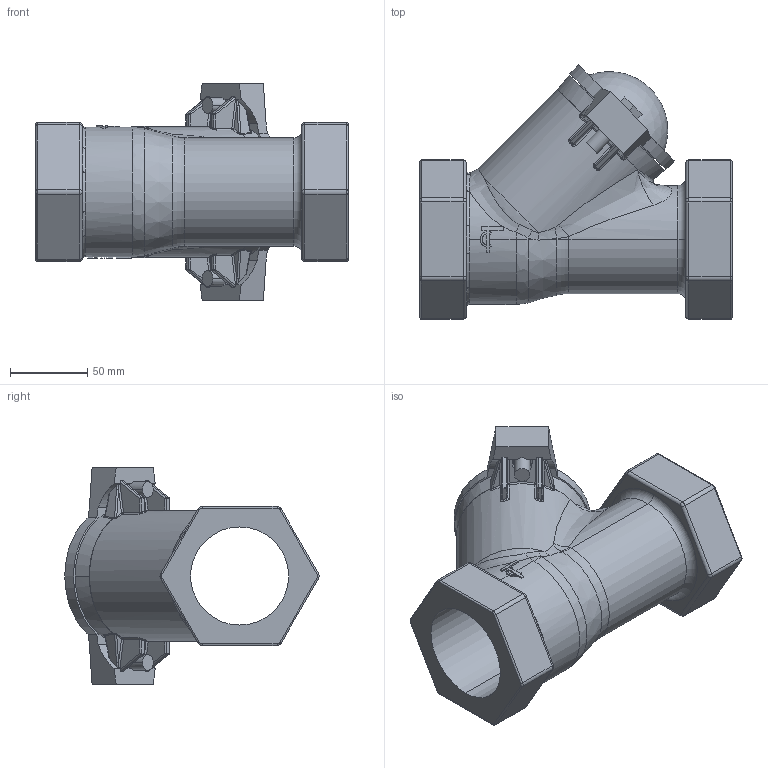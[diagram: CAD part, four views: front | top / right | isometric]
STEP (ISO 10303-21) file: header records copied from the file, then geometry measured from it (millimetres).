
FILE_DESCRIPTION (( 'STEP AP203' ), '1' );
FILE_NAME ('DN65.STEP', '2010-05-14T07:19:27', ( 'farex' ), ( '' ), 'SwSTEP 2.0', 'SolidWorks 2009', '' );
FILE_SCHEMA (( 'CONFIG_CONTROL_DESIGN' ));
Length unit declared in the file: millimetre
Products named in the file (1): DN65
Bounding box: 202 x 164.67 x 140 mm (x, y, z)
Volume: 926430.6 mm3; surface area: 140525.7 mm2
Topology: 1 solids, 1 shells, 458 faces, 1186 edges, 729 vertices
Faces by surface type: cylinder 127, bspline 124, plane 120, torus 52, sphere 28, cone 7
Entity records: 20499 total; most frequent: CARTESIAN_POINT 10300, ORIENTED_EDGE 2356, DIRECTION 1832, EDGE_CURVE 1178, AXIS2_PLACEMENT_3D 733, VERTEX_POINT 725, EDGE_LOOP 471, FACE_OUTER_BOUND 458
